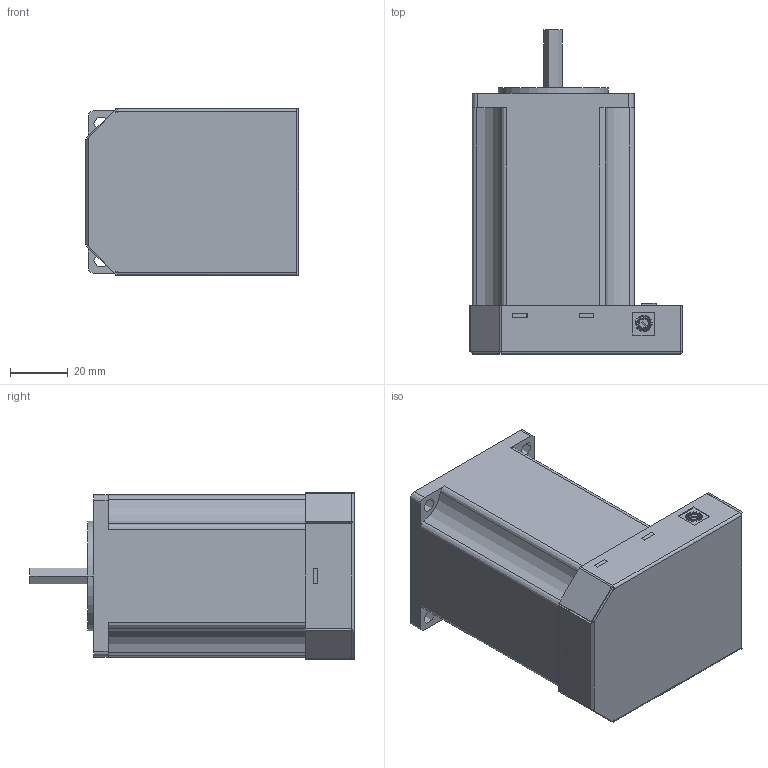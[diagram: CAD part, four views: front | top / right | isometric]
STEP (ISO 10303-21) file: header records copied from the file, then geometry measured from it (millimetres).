
FILE_DESCRIPTION (( 'STEP AP214' ), '1' );
FILE_NAME ('iMOT233S XM-CAN.STEP', '2020-03-06T09:53:57', ( 'a_neacsu' ), ( '' ), 'SwSTEP 2.0', 'SolidWorks 2017', '' );
FILE_SCHEMA (( 'AUTOMOTIVE_DESIGN' ));
Length unit declared in the file: millimetre
Products named in the file (13): BN16_screw_inbus_M3_flathead; P036.710.0004.10K.PCB.Simplified; P036.750.0001.10D.Cover.250415; P036.759.0005.10D.Baseplate; P036.Motor.233; iMOT233S XM-CAN; BN16_screw_inbus_M3_flathead_4; P036.750.0001.10D.Cover.250415_D‚faut; P036.Motor.233_D‚faut
Assembly tree (8 placements, depth 2):
  P036.710.0004.10K.PCB.Simplified
  P036.750.0001.10D.Cover.250415
  P036.759.0005.10D.Baseplate
  P036.Motor.233
  iMOT233S XM-CAN
    P036.Motor.233_D‚faut
    P036.759.0005.10D.Baseplate
    P036.750.0001.10D.Cover.250415_D‚faut
    P036.710.0004.10K.PCB.Simplified
    BN16_screw_inbus_M3_flathead_4  x2
Bounding box: 73.8 x 112 x 57.6 mm (x, y, z)
Volume: 227451.9 mm3; surface area: 59943.5 mm2
Topology: 5 solids, 13 shells, 1974 faces, 5287 edges, 3434 vertices
Faces by surface type: plane 1342, cylinder 469, bspline 127, cone 20, torus 16
Entity records: 86507 total; most frequent: CARTESIAN_POINT 18927, ORIENTED_EDGE 10388, DIRECTION 9513, EDGE_CURVE 5197, VECTOR 4013, LINE 4013, VERTEX_POINT 3384, AXIS2_PLACEMENT_3D 2750
